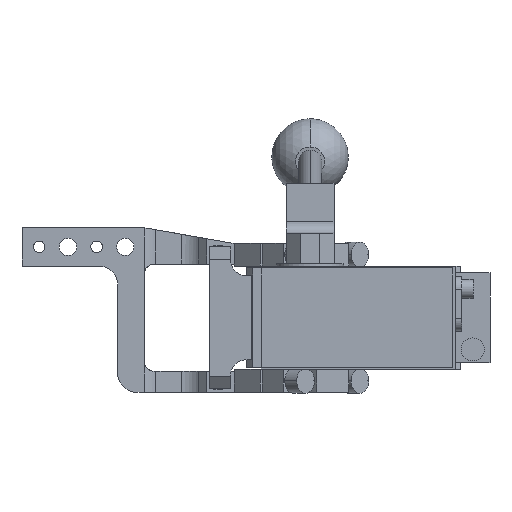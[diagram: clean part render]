
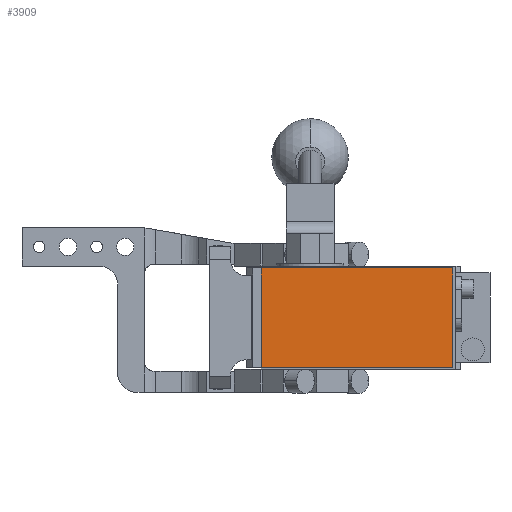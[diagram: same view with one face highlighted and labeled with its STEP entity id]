
A CAD part, front view. The second image highlights one B-rep face of the part: STEP entity #3909.
In plain terms, the highlighted planar face has unit normal (0, -1, 0).
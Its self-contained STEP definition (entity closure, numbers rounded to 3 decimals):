
#1311 = EDGE_CURVE ( 'NONE', #5762, #13080, #3341, .T. ) ;
#1570 = CARTESIAN_POINT ( 'NONE',  ( -19., -286.5, 26. ) ) ;
#2633 = CARTESIAN_POINT ( 'NONE',  ( 81., -286.5, 26. ) ) ;
#2755 = EDGE_LOOP ( 'NONE', ( #6279, #14992, #3212, #7359 ) ) ;
#2890 = DIRECTION ( 'NONE',  ( 0., 0., -1. ) ) ;
#3212 = ORIENTED_EDGE ( 'NONE', *, *, #9985, .T. ) ;
#3341 = LINE ( 'NONE', #4732, #11353 ) ;
#3909 = ADVANCED_FACE ( 'NONE', ( #10766 ), #4133, .T. ) ;
#4038 = LINE ( 'NONE', #1570, #10085 ) ;
#4133 = PLANE ( 'NONE',  #4153 ) ;
#4153 = AXIS2_PLACEMENT_3D ( 'NONE', #9134, #14096, #2890 ) ;
#4552 = EDGE_CURVE ( 'NONE', #11568, #10683, #13715, .T. ) ;
#4732 = CARTESIAN_POINT ( 'NONE',  ( -19., -286.5, -26. ) ) ;
#4926 = CARTESIAN_POINT ( 'NONE',  ( -19., -286.5, 26. ) ) ;
#5762 = VERTEX_POINT ( 'NONE', #9726 ) ;
#6171 = VECTOR ( 'NONE', #11561, 1000. ) ;
#6279 = ORIENTED_EDGE ( 'NONE', *, *, #7156, .T. ) ;
#7156 = EDGE_CURVE ( 'NONE', #10683, #5762, #4038, .T. ) ;
#7359 = ORIENTED_EDGE ( 'NONE', *, *, #4552, .T. ) ;
#8670 = CARTESIAN_POINT ( 'NONE',  ( 81., -286.5, 26. ) ) ;
#8965 = DIRECTION ( 'NONE',  ( 0., 0., -1. ) ) ;
#9134 = CARTESIAN_POINT ( 'NONE',  ( 0., -286.5, 0. ) ) ;
#9643 = DIRECTION ( 'NONE',  ( 1., 0., 0. ) ) ;
#9726 = CARTESIAN_POINT ( 'NONE',  ( -19., -286.5, -26. ) ) ;
#9971 = CARTESIAN_POINT ( 'NONE',  ( -19., -286.5, 26. ) ) ;
#9985 = EDGE_CURVE ( 'NONE', #13080, #11568, #15068, .T. ) ;
#10085 = VECTOR ( 'NONE', #8965, 1000. ) ;
#10683 = VERTEX_POINT ( 'NONE', #4926 ) ;
#10766 = FACE_OUTER_BOUND ( 'NONE', #2755, .T. ) ;
#11353 = VECTOR ( 'NONE', #9643, 1000. ) ;
#11561 = DIRECTION ( 'NONE',  ( 0., 0., 1. ) ) ;
#11568 = VERTEX_POINT ( 'NONE', #8670 ) ;
#13080 = VERTEX_POINT ( 'NONE', #15137 ) ;
#13715 = LINE ( 'NONE', #9971, #14789 ) ;
#13875 = DIRECTION ( 'NONE',  ( -1., 0., 0. ) ) ;
#14096 = DIRECTION ( 'NONE',  ( 0., -1., 0. ) ) ;
#14789 = VECTOR ( 'NONE', #13875, 1000. ) ;
#14992 = ORIENTED_EDGE ( 'NONE', *, *, #1311, .T. ) ;
#15068 = LINE ( 'NONE', #2633, #6171 ) ;
#15137 = CARTESIAN_POINT ( 'NONE',  ( 81., -286.5, -26. ) ) ;
